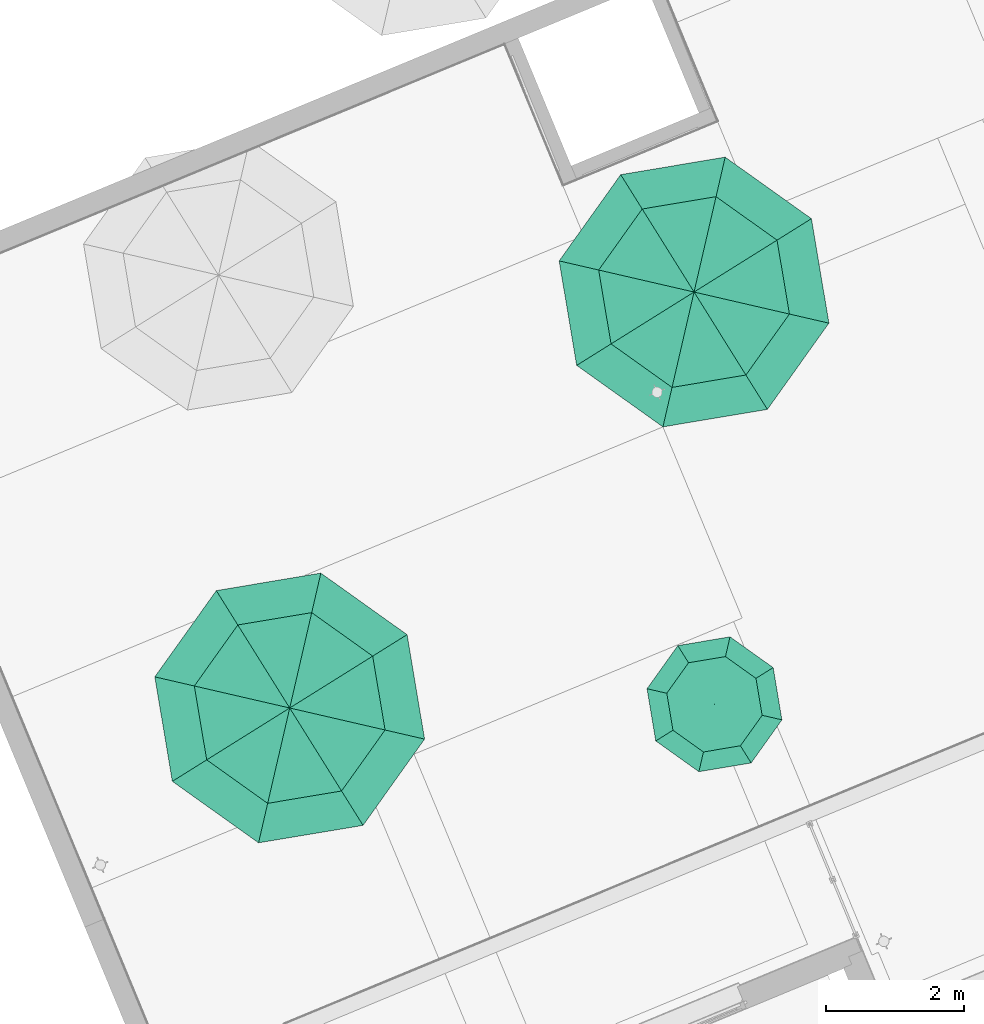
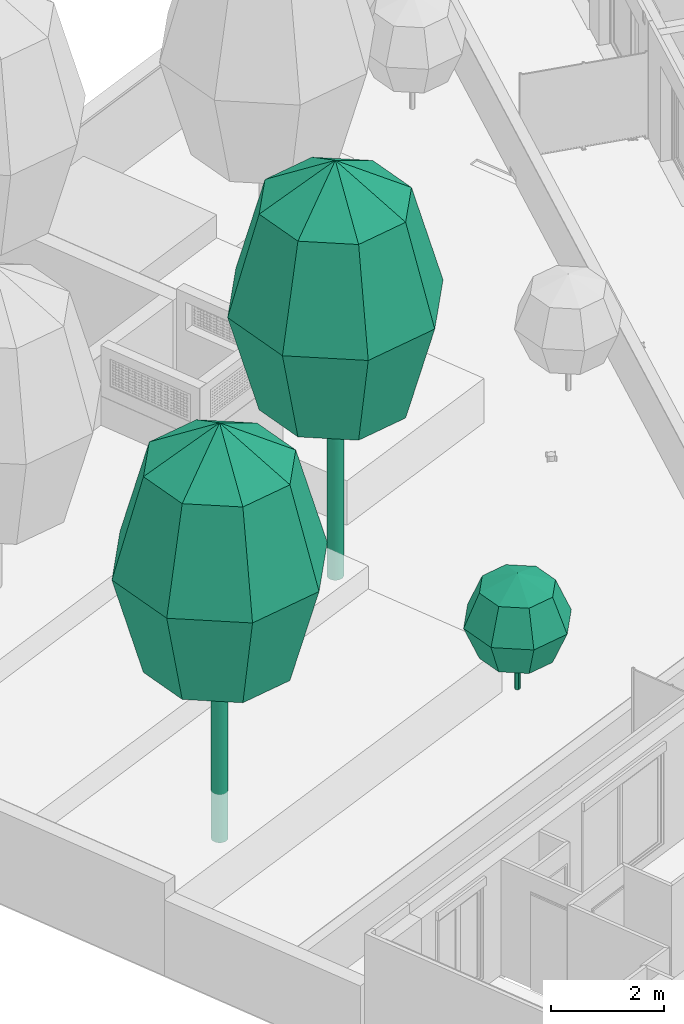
# One storey, part 88 of 119: 3 flow terminals.
"""IFC2X3 building model written with IfcOpenShell, lengths in metres."""

from ifc_helpers import new_model, entity, si_unit, converted_unit, derived_unit, money_unit, direction, frame, origin_with_axes, place, context, subcontext, project, spatial, faceted_brep, source, transform, mapped, type_object, element, save


model = new_model("IFC2X3")

# Units and contexts
model_context = context("Model", 3, precision=1e-05, world=origin_with_axes(), true_north=direction((0.0, 1.0)))
body_context = subcontext(model_context, "Body", "Model", "MODEL_VIEW")
ifc_project = project(units=[si_unit("LENGTHUNIT", "METRE"), si_unit("AREAUNIT", "SQUARE_METRE"), si_unit("VOLUMEUNIT", "CUBIC_METRE"), converted_unit("PLANEANGLEUNIT", "DEGREE", entity("IfcPlaneAngleMeasure", 0.0174532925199), si_unit("PLANEANGLEUNIT", "RADIAN"), dimensions=[0, 0, 0, 0, 0, 0, 0]), si_unit("SOLIDANGLEUNIT", "STERADIAN"), money_unit("EUR"), converted_unit("TIMEUNIT", "Year", entity("IfcTimeMeasure", 31556926.0), si_unit("TIMEUNIT", "SECOND"), dimensions=[0, 0, 1, 0, 0, 0, 0]), si_unit("MASSUNIT", "GRAM", prefix="KILO"), si_unit("THERMODYNAMICTEMPERATUREUNIT", "DEGREE_CELSIUS"), si_unit("LUMINOUSINTENSITYUNIT", "LUMEN"), si_unit("ENERGYUNIT", "JOULE", prefix="MEGA"), derived_unit("THERMALCONDUCTANCEUNIT", [(si_unit("POWERUNIT", "WATT"), 1), (si_unit("LENGTHUNIT", "METRE"), -1), (si_unit("THERMODYNAMICTEMPERATUREUNIT", "KELVIN"), -1)]), derived_unit("SPECIFICHEATCAPACITYUNIT", [(si_unit("ENERGYUNIT", "JOULE"), 1), (si_unit("MASSUNIT", "GRAM", prefix="KILO"), -1), (si_unit("THERMODYNAMICTEMPERATUREUNIT", "KELVIN"), -1)]), derived_unit("MASSDENSITYUNIT", [(si_unit("MASSUNIT", "GRAM", prefix="KILO"), 1), (si_unit("VOLUMEUNIT", "CUBIC_METRE"), -1)])], contexts=[model_context])

# Site, building, storey
site_placement = place(None, origin_with_axes())
site = spatial("IfcSite", under=ifc_project, at=site_placement, Name="Site", CompositionType="ELEMENT")
building_placement = place(site_placement, origin_with_axes())
building = spatial("IfcBuilding", under=site, at=building_placement, Name="Bâtiment", CompositionType="ELEMENT")
storey_placement = place(building_placement, origin_with_axes())
storey = spatial("IfcBuildingStorey", under=building, at=storey_placement, Name="Rez-de-chaussée", CompositionType="ELEMENT", Elevation=0.0)

# Flow terminals
air_terminal_type = type_object("IfcAirTerminalType", Name="Modèle arbre conceptuel 23", PredefinedType="NOTDEFINED")
shared_shape_1 = source(origin_with_axes(), body_context, "Body", "Brep", [
    faceted_brep([(-0.0492403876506, -0.00868240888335, 0.0), (-0.05, 0.0, 0.0), (-0.0492403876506, 0.00868240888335, 0.0), (-0.0469846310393, 0.0171010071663, 0.0), (-0.0433012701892, 0.025, 0.0), (-0.0383022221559, 0.0321393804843, 0.0), (-0.0321393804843, 0.0383022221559, 0.0), (-0.025, 0.0433012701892, 0.0), (-0.0171010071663, 0.0469846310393, 0.0), (-0.00868240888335, 0.0492403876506, 0.0), (0.0, 0.05, 0.0), (0.00868240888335, 0.0492403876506, 0.0), (0.0171010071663, 0.0469846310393, 0.0), (0.025, 0.0433012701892, 0.0), (0.0321393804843, 0.0383022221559, 0.0), (0.0383022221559, 0.0321393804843, 0.0), (0.0433012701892, 0.025, 0.0), (0.0469846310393, 0.0171010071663, 0.0), (0.0492403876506, 0.00868240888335, 0.0), (0.05, 0.0, 0.0), (0.0492403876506, -0.00868240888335, 0.0), (0.0469846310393, -0.0171010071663, 0.0), (0.0433012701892, -0.025, 0.0), (0.0383022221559, -0.0321393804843, 0.0), (0.0321393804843, -0.0383022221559, 0.0), (0.025, -0.0433012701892, 0.0), (0.0171010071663, -0.0469846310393, 0.0), (0.00868240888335, -0.0492403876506, 0.0), (0.0, -0.05, 0.0), (-0.00868240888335, -0.0492403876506, 0.0), (-0.0171010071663, -0.0469846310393, 0.0), (-0.025, -0.0433012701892, 0.0), (-0.0321393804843, -0.0383022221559, 0.0), (-0.0383022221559, -0.0321393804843, 0.0), (-0.0433012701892, -0.025, 0.0), (-0.0469846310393, -0.0171010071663, 0.0), (-0.0492403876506, -0.00868240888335, 0.5), (-0.05, 0.0, 0.5), (-0.0492403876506, 0.00868240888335, 0.5), (-0.0469846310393, 0.0171010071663, 0.5), (-0.0433012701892, 0.025, 0.5), (-0.0383022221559, 0.0321393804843, 0.5), (-0.0321393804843, 0.0383022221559, 0.5), (-0.025, 0.0433012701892, 0.5), (-0.0171010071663, 0.0469846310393, 0.5), (-0.00868240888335, 0.0492403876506, 0.5), (0.0, 0.05, 0.5), (0.00868240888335, 0.0492403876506, 0.5), (0.0171010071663, 0.0469846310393, 0.5), (0.025, 0.0433012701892, 0.5), (0.0321393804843, 0.0383022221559, 0.5), (0.0383022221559, 0.0321393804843, 0.5), (0.0433012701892, 0.025, 0.5), (0.0469846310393, 0.0171010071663, 0.5), (0.0492403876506, 0.00868240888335, 0.5), (0.05, 0.0, 0.5), (0.0492403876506, -0.00868240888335, 0.5), (0.0469846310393, -0.0171010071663, 0.5), (0.0433012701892, -0.025, 0.5), (0.0383022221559, -0.0321393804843, 0.5), (0.0321393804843, -0.0383022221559, 0.5), (0.025, -0.0433012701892, 0.5), (0.0171010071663, -0.0469846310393, 0.5), (0.00868240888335, -0.0492403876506, 0.5), (0.0, -0.05, 0.5), (-0.00868240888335, -0.0492403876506, 0.5), (-0.0171010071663, -0.0469846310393, 0.5), (-0.025, -0.0433012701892, 0.5), (-0.0321393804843, -0.0383022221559, 0.5), (-0.0383022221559, -0.0321393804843, 0.5), (-0.0433012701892, -0.025, 0.5), (-0.0469846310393, -0.0171010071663, 0.5)], [[[0, 1, 2, 3, 4, 5, 6, 7, 8, 9, 10, 11, 12, 13, 14, 15, 16, 17, 18, 19, 20, 21, 22, 23, 24, 25, 26, 27, 28, 29, 30, 31, 32, 33, 34, 35]], [[0, 36, 37, 1]], [[1, 37, 38, 2]], [[2, 38, 39, 3]], [[3, 39, 40, 4]], [[4, 40, 41, 5]], [[5, 41, 42, 6]], [[6, 42, 43, 7]], [[7, 43, 44, 8]], [[8, 44, 45, 9]], [[9, 45, 46, 10]], [[10, 46, 47, 11]], [[11, 47, 48, 12]], [[12, 48, 49, 13]], [[13, 49, 50, 14]], [[14, 50, 51, 15]], [[15, 51, 52, 16]], [[16, 52, 53, 17]], [[17, 53, 54, 18]], [[18, 54, 55, 19]], [[19, 55, 56, 20]], [[20, 56, 57, 21]], [[21, 57, 58, 22]], [[22, 58, 59, 23]], [[23, 59, 60, 24]], [[24, 60, 61, 25]], [[25, 61, 62, 26]], [[26, 62, 63, 27]], [[27, 63, 64, 28]], [[28, 64, 65, 29]], [[29, 65, 66, 30]], [[30, 66, 67, 31]], [[31, 67, 68, 32]], [[32, 68, 69, 33]], [[33, 69, 70, 34]], [[34, 70, 71, 35]], [[35, 71, 36, 0]], [[36, 71, 70, 69, 68, 67, 66, 65, 64, 63, 62, 61, 60, 59, 58, 57, 56, 55, 54, 53, 52, 51, 50, 49, 48, 47, 46, 45, 44, 43, 42, 41, 40, 39, 38, 37]]]),
    faceted_brep([(-0.0492403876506, -0.00868240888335, 0.5), (-0.05, 0.0, 0.5), (-0.0492403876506, 0.00868240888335, 0.5), (-0.0469846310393, 0.0171010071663, 0.5), (-0.0433012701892, 0.025, 0.5), (-0.0383022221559, 0.0321393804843, 0.5), (-0.0321393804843, 0.0383022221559, 0.5), (-0.025, 0.0433012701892, 0.5), (-0.0171010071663, 0.0469846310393, 0.5), (-0.00868240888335, 0.0492403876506, 0.5), (0.0, 0.05, 0.5), (0.00868240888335, 0.0492403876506, 0.5), (0.0171010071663, 0.0469846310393, 0.5), (0.025, 0.0433012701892, 0.5), (0.0321393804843, 0.0383022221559, 0.5), (0.0383022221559, 0.0321393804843, 0.5), (0.0433012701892, 0.025, 0.5), (0.0469846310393, 0.0171010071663, 0.5), (0.0492403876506, 0.00868240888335, 0.5), (0.05, 0.0, 0.5), (0.0492403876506, -0.00868240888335, 0.5), (0.0469846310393, -0.0171010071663, 0.5), (0.0433012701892, -0.025, 0.5), (0.0383022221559, -0.0321393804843, 0.5), (0.0321393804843, -0.0383022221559, 0.5), (0.025, -0.0433012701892, 0.5), (0.0171010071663, -0.0469846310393, 0.5), (0.00868240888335, -0.0492403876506, 0.5), (0.0, -0.05, 0.5), (-0.00868240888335, -0.0492403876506, 0.5), (-0.0171010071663, -0.0469846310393, 0.5), (-0.025, -0.0433012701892, 0.5), (-0.0321393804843, -0.0383022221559, 0.5), (-0.0383022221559, -0.0321393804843, 0.5), (-0.0433012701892, -0.025, 0.5), (-0.0469846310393, -0.0171010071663, 0.5), (0.0, 0.0, 1.5)], [[[0, 1, 2, 3, 4, 5, 6, 7, 8, 9, 10, 11, 12, 13, 14, 15, 16, 17, 18, 19, 20, 21, 22, 23, 24, 25, 26, 27, 28, 29, 30, 31, 32, 33, 34, 35]], [[0, 36, 1]], [[1, 36, 2]], [[2, 36, 3]], [[3, 36, 4]], [[4, 36, 5]], [[5, 36, 6]], [[6, 36, 7]], [[7, 36, 8]], [[8, 36, 9]], [[9, 36, 10]], [[10, 36, 11]], [[11, 36, 12]], [[12, 36, 13]], [[13, 36, 14]], [[14, 36, 15]], [[15, 36, 16]], [[16, 36, 17]], [[17, 36, 18]], [[18, 36, 19]], [[19, 36, 20]], [[20, 36, 21]], [[21, 36, 22]], [[22, 36, 23]], [[23, 36, 24]], [[24, 36, 25]], [[25, 36, 26]], [[26, 36, 27]], [[27, 36, 28]], [[28, 36, 29]], [[29, 36, 30]], [[30, 36, 31]], [[31, 36, 32]], [[32, 36, 33]], [[33, 36, 34]], [[34, 36, 35]], [[35, 36, 0]]]),
    faceted_brep([(-0.707106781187, 0.0, 2.20710678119), (-0.5, -0.5, 2.20710678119), (0.0, 0.0, 2.5), (-1.0, 0.0, 1.5), (-0.707106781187, -0.707106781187, 1.5), (0.0, -0.707106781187, 2.20710678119), (-0.5, 0.5, 2.20710678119), (-0.707106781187, 0.0, 0.792893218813), (-0.5, -0.5, 0.792893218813), (0.0, -1.0, 1.5), (-0.707106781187, 0.707106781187, 1.5), (0.5, -0.5, 2.20710678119), (0.0, 0.707106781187, 2.20710678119), (0.0, 0.0, 0.5), (0.0, -0.707106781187, 0.792893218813), (-0.5, 0.5, 0.792893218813), (0.707106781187, -0.707106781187, 1.5), (0.0, 1.0, 1.5), (0.707106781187, 0.0, 2.20710678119), (0.5, 0.5, 2.20710678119), (0.5, -0.5, 0.792893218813), (0.0, 0.707106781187, 0.792893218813), (1.0, 0.0, 1.5), (0.707106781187, 0.707106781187, 1.5), (0.707106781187, 0.0, 0.792893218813), (0.5, 0.5, 0.792893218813)], [[[0, 1, 2]], [[3, 4, 1, 0]], [[1, 5, 2]], [[6, 0, 2]], [[7, 8, 4, 3]], [[4, 9, 5, 1]], [[10, 3, 0, 6]], [[5, 11, 2]], [[12, 6, 2]], [[13, 8, 7]], [[8, 14, 9, 4]], [[15, 7, 3, 10]], [[9, 16, 11, 5]], [[17, 10, 6, 12]], [[11, 18, 2]], [[19, 12, 2]], [[13, 14, 8]], [[13, 7, 15]], [[14, 20, 16, 9]], [[21, 15, 10, 17]], [[16, 22, 18, 11]], [[23, 17, 12, 19]], [[18, 19, 2]], [[13, 20, 14]], [[13, 15, 21]], [[20, 24, 22, 16]], [[25, 21, 17, 23]], [[22, 23, 19, 18]], [[13, 24, 20]], [[13, 21, 25]], [[24, 25, 23, 22]], [[13, 25, 24]]]),
])
flow_terminal_placement = place(storey_placement, frame((-28.0713034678, -10.6804482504, 1.06489449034), z_axis=(0.0, 0.0, 1.0), x_axis=(-0.224876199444, -0.974387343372, 0.0)))
element("IfcFlowTerminal", 1, at=flow_terminal_placement, inside=storey, type_object=air_terminal_type, ObjectType="AIR TERMINAL", context=body_context, shape_type="MappedRepresentation", body=[
    mapped(shared_shape_1, transform((0.0, 0.0, 0.0))),
])
shared_shape_2 = source(origin_with_axes(), body_context, "Body", "Brep", [
    faceted_brep([(-0.147721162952, -0.02604722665, 0.0), (-0.15, 0.0, 0.0), (-0.147721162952, 0.02604722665, 0.0), (-0.140953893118, 0.0513030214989, 0.0), (-0.129903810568, 0.075, 0.0), (-0.114906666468, 0.096418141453, 0.0), (-0.096418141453, 0.114906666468, 0.0), (-0.075, 0.129903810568, 0.0), (-0.0513030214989, 0.140953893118, 0.0), (-0.02604722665, 0.147721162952, 0.0), (0.0, 0.15, 0.0), (0.02604722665, 0.147721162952, 0.0), (0.0513030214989, 0.140953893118, 0.0), (0.075, 0.129903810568, 0.0), (0.096418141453, 0.114906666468, 0.0), (0.114906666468, 0.096418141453, 0.0), (0.129903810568, 0.075, 0.0), (0.140953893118, 0.0513030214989, 0.0), (0.147721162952, 0.02604722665, 0.0), (0.15, 0.0, 0.0), (0.147721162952, -0.02604722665, 0.0), (0.140953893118, -0.0513030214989, 0.0), (0.129903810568, -0.075, 0.0), (0.114906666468, -0.096418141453, 0.0), (0.096418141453, -0.114906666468, 0.0), (0.075, -0.129903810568, 0.0), (0.0513030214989, -0.140953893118, 0.0), (0.02604722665, -0.147721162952, 0.0), (0.0, -0.15, 0.0), (-0.02604722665, -0.147721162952, 0.0), (-0.0513030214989, -0.140953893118, 0.0), (-0.075, -0.129903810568, 0.0), (-0.096418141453, -0.114906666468, 0.0), (-0.114906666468, -0.096418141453, 0.0), (-0.129903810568, -0.075, 0.0), (-0.140953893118, -0.0513030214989, 0.0), (-0.147721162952, -0.02604722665, 3.0), (-0.15, 0.0, 3.0), (-0.147721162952, 0.02604722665, 3.0), (-0.140953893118, 0.0513030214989, 3.0), (-0.129903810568, 0.075, 3.0), (-0.114906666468, 0.096418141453, 3.0), (-0.096418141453, 0.114906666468, 3.0), (-0.075, 0.129903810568, 3.0), (-0.0513030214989, 0.140953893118, 3.0), (-0.02604722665, 0.147721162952, 3.0), (0.0, 0.15, 3.0), (0.02604722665, 0.147721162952, 3.0), (0.0513030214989, 0.140953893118, 3.0), (0.075, 0.129903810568, 3.0), (0.096418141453, 0.114906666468, 3.0), (0.114906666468, 0.096418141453, 3.0), (0.129903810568, 0.075, 3.0), (0.140953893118, 0.0513030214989, 3.0), (0.147721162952, 0.02604722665, 3.0), (0.15, 0.0, 3.0), (0.147721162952, -0.02604722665, 3.0), (0.140953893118, -0.0513030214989, 3.0), (0.129903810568, -0.075, 3.0), (0.114906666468, -0.096418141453, 3.0), (0.096418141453, -0.114906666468, 3.0), (0.075, -0.129903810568, 3.0), (0.0513030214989, -0.140953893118, 3.0), (0.02604722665, -0.147721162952, 3.0), (0.0, -0.15, 3.0), (-0.02604722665, -0.147721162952, 3.0), (-0.0513030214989, -0.140953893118, 3.0), (-0.075, -0.129903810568, 3.0), (-0.096418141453, -0.114906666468, 3.0), (-0.114906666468, -0.096418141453, 3.0), (-0.129903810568, -0.075, 3.0), (-0.140953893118, -0.0513030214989, 3.0)], [[[0, 1, 2, 3, 4, 5, 6, 7, 8, 9, 10, 11, 12, 13, 14, 15, 16, 17, 18, 19, 20, 21, 22, 23, 24, 25, 26, 27, 28, 29, 30, 31, 32, 33, 34, 35]], [[0, 36, 37, 1]], [[1, 37, 38, 2]], [[2, 38, 39, 3]], [[3, 39, 40, 4]], [[4, 40, 41, 5]], [[5, 41, 42, 6]], [[6, 42, 43, 7]], [[7, 43, 44, 8]], [[8, 44, 45, 9]], [[9, 45, 46, 10]], [[10, 46, 47, 11]], [[11, 47, 48, 12]], [[12, 48, 49, 13]], [[13, 49, 50, 14]], [[14, 50, 51, 15]], [[15, 51, 52, 16]], [[16, 52, 53, 17]], [[17, 53, 54, 18]], [[18, 54, 55, 19]], [[19, 55, 56, 20]], [[20, 56, 57, 21]], [[21, 57, 58, 22]], [[22, 58, 59, 23]], [[23, 59, 60, 24]], [[24, 60, 61, 25]], [[25, 61, 62, 26]], [[26, 62, 63, 27]], [[27, 63, 64, 28]], [[28, 64, 65, 29]], [[29, 65, 66, 30]], [[30, 66, 67, 31]], [[31, 67, 68, 32]], [[32, 68, 69, 33]], [[33, 69, 70, 34]], [[34, 70, 71, 35]], [[35, 71, 36, 0]], [[36, 71, 70, 69, 68, 67, 66, 65, 64, 63, 62, 61, 60, 59, 58, 57, 56, 55, 54, 53, 52, 51, 50, 49, 48, 47, 46, 45, 44, 43, 42, 41, 40, 39, 38, 37]]]),
    faceted_brep([(-0.147721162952, -0.02604722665, 3.0), (-0.15, 0.0, 3.0), (-0.147721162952, 0.02604722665, 3.0), (-0.140953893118, 0.0513030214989, 3.0), (-0.129903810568, 0.075, 3.0), (-0.114906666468, 0.096418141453, 3.0), (-0.096418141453, 0.114906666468, 3.0), (-0.075, 0.129903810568, 3.0), (-0.0513030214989, 0.140953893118, 3.0), (-0.02604722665, 0.147721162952, 3.0), (0.0, 0.15, 3.0), (0.02604722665, 0.147721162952, 3.0), (0.0513030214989, 0.140953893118, 3.0), (0.075, 0.129903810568, 3.0), (0.096418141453, 0.114906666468, 3.0), (0.114906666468, 0.096418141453, 3.0), (0.129903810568, 0.075, 3.0), (0.140953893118, 0.0513030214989, 3.0), (0.147721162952, 0.02604722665, 3.0), (0.15, 0.0, 3.0), (0.147721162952, -0.02604722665, 3.0), (0.140953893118, -0.0513030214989, 3.0), (0.129903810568, -0.075, 3.0), (0.114906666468, -0.096418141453, 3.0), (0.096418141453, -0.114906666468, 3.0), (0.075, -0.129903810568, 3.0), (0.0513030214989, -0.140953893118, 3.0), (0.02604722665, -0.147721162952, 3.0), (0.0, -0.15, 3.0), (-0.02604722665, -0.147721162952, 3.0), (-0.0513030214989, -0.140953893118, 3.0), (-0.075, -0.129903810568, 3.0), (-0.096418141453, -0.114906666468, 3.0), (-0.114906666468, -0.096418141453, 3.0), (-0.129903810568, -0.075, 3.0), (-0.140953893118, -0.0513030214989, 3.0), (0.0, 0.0, 6.0)], [[[0, 1, 2, 3, 4, 5, 6, 7, 8, 9, 10, 11, 12, 13, 14, 15, 16, 17, 18, 19, 20, 21, 22, 23, 24, 25, 26, 27, 28, 29, 30, 31, 32, 33, 34, 35]], [[0, 36, 1]], [[1, 36, 2]], [[2, 36, 3]], [[3, 36, 4]], [[4, 36, 5]], [[5, 36, 6]], [[6, 36, 7]], [[7, 36, 8]], [[8, 36, 9]], [[9, 36, 10]], [[10, 36, 11]], [[11, 36, 12]], [[12, 36, 13]], [[13, 36, 14]], [[14, 36, 15]], [[15, 36, 16]], [[16, 36, 17]], [[17, 36, 18]], [[18, 36, 19]], [[19, 36, 20]], [[20, 36, 21]], [[21, 36, 22]], [[22, 36, 23]], [[23, 36, 24]], [[24, 36, 25]], [[25, 36, 26]], [[26, 36, 27]], [[27, 36, 28]], [[28, 36, 29]], [[29, 36, 30]], [[30, 36, 31]], [[31, 36, 32]], [[32, 36, 33]], [[33, 36, 34]], [[34, 36, 35]], [[35, 36, 0]]]),
    faceted_brep([(-1.41421356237, 0.0, 8.12132034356), (-1.0, -1.0, 8.12132034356), (0.0, 0.0, 9.0), (-2.0, 0.0, 6.0), (-1.41421356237, -1.41421356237, 6.0), (0.0, -1.41421356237, 8.12132034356), (-1.0, 1.0, 8.12132034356), (-1.41421356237, 0.0, 3.87867965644), (-1.0, -1.0, 3.87867965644), (0.0, -2.0, 6.0), (-1.41421356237, 1.41421356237, 6.0), (1.0, -1.0, 8.12132034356), (0.0, 1.41421356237, 8.12132034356), (0.0, 0.0, 3.0), (0.0, -1.41421356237, 3.87867965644), (-1.0, 1.0, 3.87867965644), (1.41421356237, -1.41421356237, 6.0), (0.0, 2.0, 6.0), (1.41421356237, 0.0, 8.12132034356), (1.0, 1.0, 8.12132034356), (1.0, -1.0, 3.87867965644), (0.0, 1.41421356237, 3.87867965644), (2.0, 0.0, 6.0), (1.41421356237, 1.41421356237, 6.0), (1.41421356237, 0.0, 3.87867965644), (1.0, 1.0, 3.87867965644)], [[[0, 1, 2]], [[3, 4, 1, 0]], [[1, 5, 2]], [[6, 0, 2]], [[7, 8, 4, 3]], [[4, 9, 5, 1]], [[10, 3, 0, 6]], [[5, 11, 2]], [[12, 6, 2]], [[13, 8, 7]], [[8, 14, 9, 4]], [[15, 7, 3, 10]], [[9, 16, 11, 5]], [[17, 10, 6, 12]], [[11, 18, 2]], [[19, 12, 2]], [[13, 14, 8]], [[13, 7, 15]], [[14, 20, 16, 9]], [[21, 15, 10, 17]], [[16, 22, 18, 11]], [[23, 17, 12, 19]], [[18, 19, 2]], [[13, 20, 14]], [[13, 15, 21]], [[20, 24, 22, 16]], [[25, 21, 17, 23]], [[22, 23, 19, 18]], [[13, 24, 20]], [[13, 21, 25]], [[24, 25, 23, 22]], [[13, 25, 24]]]),
])
for number, where, z_axis, x_axis, name in (
    (2, (-28.3663833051, -4.72381092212, 0.0), (0.0, 0.0, 1.0), (-0.224876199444, -0.974387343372, 0.0), "Prunus avium"),
    (3, (-34.2085847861, -10.7337920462, 0.0), (0.0, 0.0, 1.0), (-0.224876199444, -0.974387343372, 0.0), "Acer Japonicum"),
):
    element("IfcFlowTerminal", number, at=place(storey_placement, frame(where, z_axis=z_axis, x_axis=x_axis)), inside=storey, type_object=air_terminal_type, Name=name, ObjectType="AIR TERMINAL", context=body_context, shape_type="MappedRepresentation", body=[
        mapped(shared_shape_2, transform((0.0, 0.0, 0.0))),
    ])

save(model, "model.ifc")
